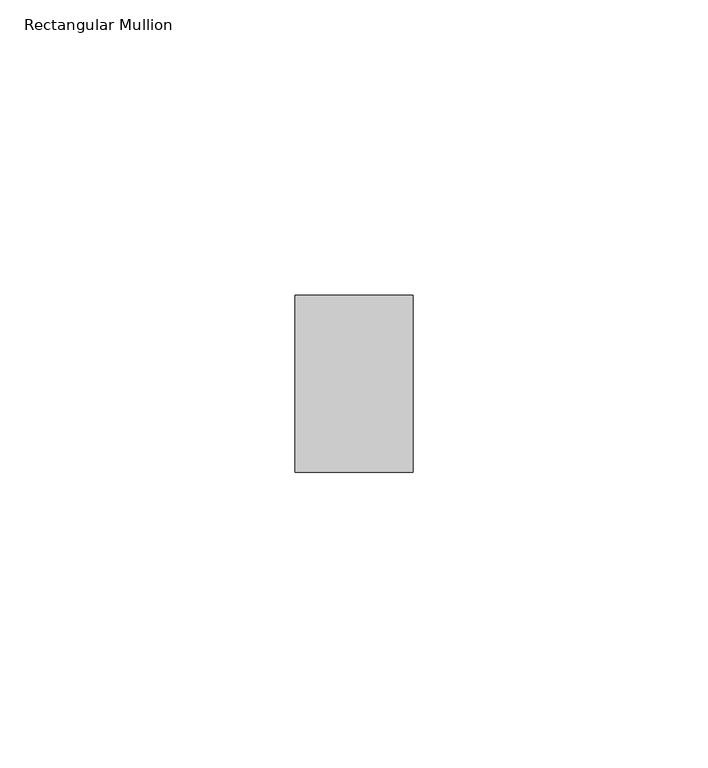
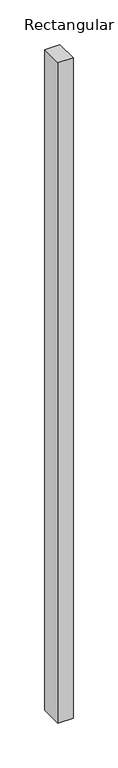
"""IFC4 building model written with IfcOpenShell, lengths in millimetres: member geometry, Rectangular Mullion : ARQ_TV_MULL_30x20mm."""

from ifc_helpers import new_model, si_unit, frame, origin, place, context, project, spatial, polyline, outline, extrude, source, transform, mapped, element, save


def rectangular_mullion_cc012177(model_context):
    return source(origin(), model_context, "Body", "SweptSolid", [
        extrude(outline(polyline([(10.0, 15.0), (10.0, -15.0), (-10.0, -15.0), (-10.0, 15.0), (10.0, 15.0)])), frame((0.0, 0.0, -905.2043467), z_axis=(0.0, 0.0, 1.0), x_axis=(1.0, 0.0, 0.0)), (0.0, 0.0, 1.0), 905.2043467),
    ])


if __name__ == "__main__":
    model = new_model("IFC4")
    model_context = context("Model", 3, world=origin())
    ifc_project = project(units=[si_unit("LENGTHUNIT", "METRE", prefix="MILLI")], contexts=[model_context])
    site = spatial("IfcSite", under=ifc_project)
    building = spatial("IfcBuilding", under=site)
    placement = place(None, origin())
    rectangular_mullion_shape = rectangular_mullion_cc012177(model_context)
    element("IfcMember", 1, ObjectType="Rectangular Mullion : ARQ_TV_MULL_30x20mm", at=placement, inside=building, context=model_context, shape_type="MappedRepresentation", body=[
        mapped(rectangular_mullion_shape, transform((0.0, 0.0, 0.0), x_axis=(1.0, 0.0, 0.0), y_axis=(0.0, 1.0, 0.0), z_axis=(0.0, 0.0, 1.0))),
    ])
    save(model, "model.ifc")
